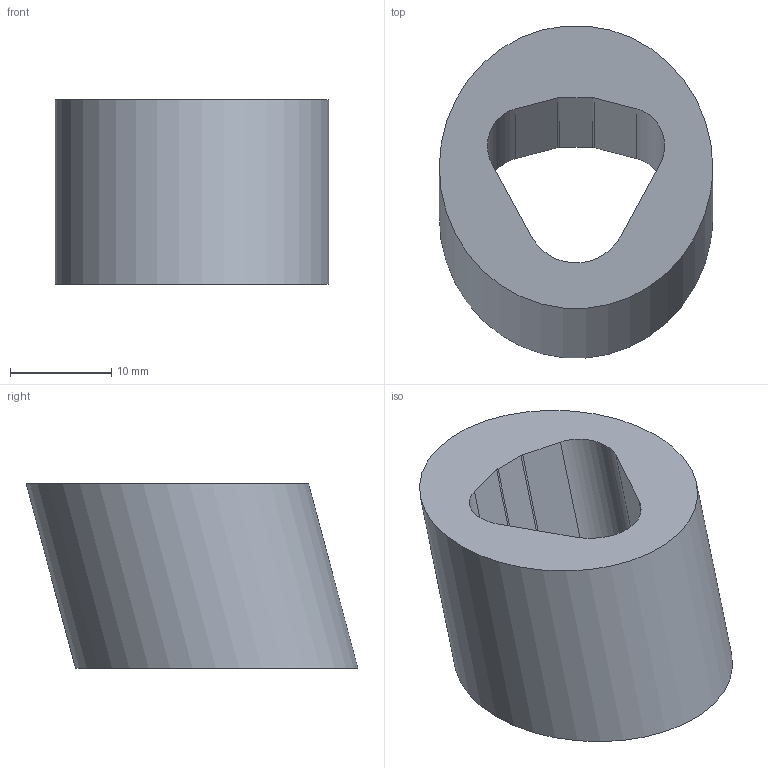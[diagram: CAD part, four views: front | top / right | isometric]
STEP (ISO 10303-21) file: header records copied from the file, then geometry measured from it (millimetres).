
FILE_DESCRIPTION(('Open CASCADE Model'),'2;1');
FILE_NAME('Open CASCADE Shape Model','1970-01-01T00:00:00',('Author'),( 'Open CASCADE'),'Open CASCADE STEP processor 7.8','Open CASCADE 7.8' ,'Unknown');
FILE_SCHEMA(('AUTOMOTIVE_DESIGN { 1 0 10303 214 1 1 1 1 }'));
Length unit declared in the file: millimetre
Products named in the file (2): Open CASCADE STEP translator 7.8 42; N24 faucet neck
Assembly tree (1 placements, depth 2):
  Open CASCADE STEP translator 7.8 42
    N24 faucet neck
Bounding box: 27 x 32.75 x 18.2 mm (x, y, z)
Volume: 7049.2 mm3; surface area: 3352.9 mm2
Topology: 1 solids, 1 shells, 13 faces, 33 edges, 22 vertices
Faces by surface type: plane 7, cylinder 6
Full cylindrical faces by diameter (mm): 27 x1
Entity records: 971 total; most frequent: CARTESIAN_POINT 262, DIRECTION 129, ORIENTED_EDGE 66, PCURVE 66, DEFINITIONAL_REPRESENTATION 66, LINE 63, VECTOR 63, EDGE_CURVE 33
